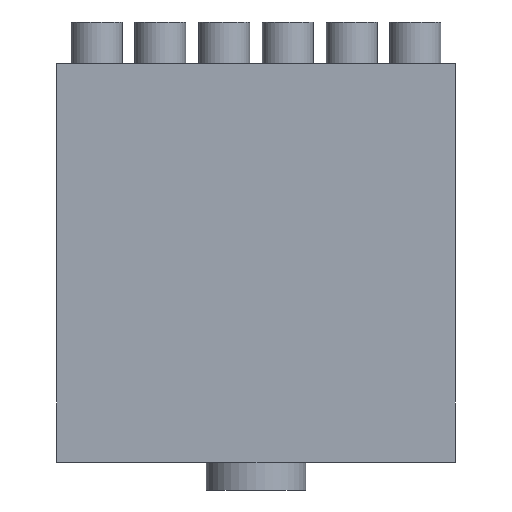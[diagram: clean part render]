
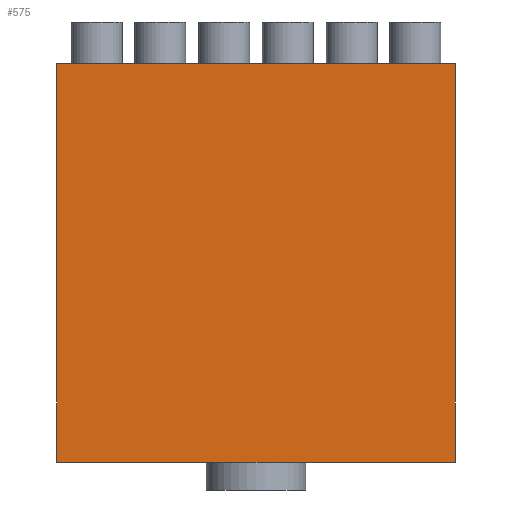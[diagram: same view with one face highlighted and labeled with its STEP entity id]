
A CAD part, front view. The second image highlights one B-rep face of the part: STEP entity #575.
In plain terms, the highlighted planar face has unit normal (0, -1, 0).
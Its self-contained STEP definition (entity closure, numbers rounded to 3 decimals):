
#16=LINE('',#879,#52);
#39=LINE('',#950,#75);
#49=LINE('',#968,#85);
#50=LINE('',#970,#86);
#52=VECTOR('',#725,10.);
#75=VECTOR('',#794,10.);
#85=VECTOR('',#812,10.);
#86=VECTOR('',#815,10.);
#108=PLANE('',#648);
#180=FACE_OUTER_BOUND('',#252,.T.);
#252=EDGE_LOOP('',(#516,#517,#518,#519));
#302=VERTEX_POINT('',#875);
#304=VERTEX_POINT('',#878);
#328=VERTEX_POINT('',#947);
#329=VERTEX_POINT('',#949);
#355=EDGE_CURVE('',#302,#304,#16,.T.);
#386=EDGE_CURVE('',#328,#329,#39,.T.);
#396=EDGE_CURVE('',#328,#304,#49,.T.);
#397=EDGE_CURVE('',#329,#302,#50,.T.);
#516=ORIENTED_EDGE('',*,*,#386,.F.);
#517=ORIENTED_EDGE('',*,*,#396,.T.);
#518=ORIENTED_EDGE('',*,*,#355,.F.);
#519=ORIENTED_EDGE('',*,*,#397,.F.);
#575=ADVANCED_FACE('',(#180),#108,.T.);
#648=AXIS2_PLACEMENT_3D('',#969,#813,#814);
#725=DIRECTION('',(1.,0.,0.));
#794=DIRECTION('',(-1.,0.,0.));
#812=DIRECTION('',(0.,0.,1.));
#813=DIRECTION('center_axis',(0.,-1.,0.));
#814=DIRECTION('ref_axis',(1.,0.,0.));
#815=DIRECTION('',(0.,0.,1.));
#875=CARTESIAN_POINT('',(-250.,-75.,500.));
#878=CARTESIAN_POINT('',(250.,-75.,500.));
#879=CARTESIAN_POINT('',(250.,-75.,500.));
#947=CARTESIAN_POINT('',(250.,-75.,0.));
#949=CARTESIAN_POINT('',(-250.,-75.,0.));
#950=CARTESIAN_POINT('',(250.,-75.,0.));
#968=CARTESIAN_POINT('',(250.,-75.,0.));
#969=CARTESIAN_POINT('Origin',(-250.,-75.,0.));
#970=CARTESIAN_POINT('',(-250.,-75.,0.));
